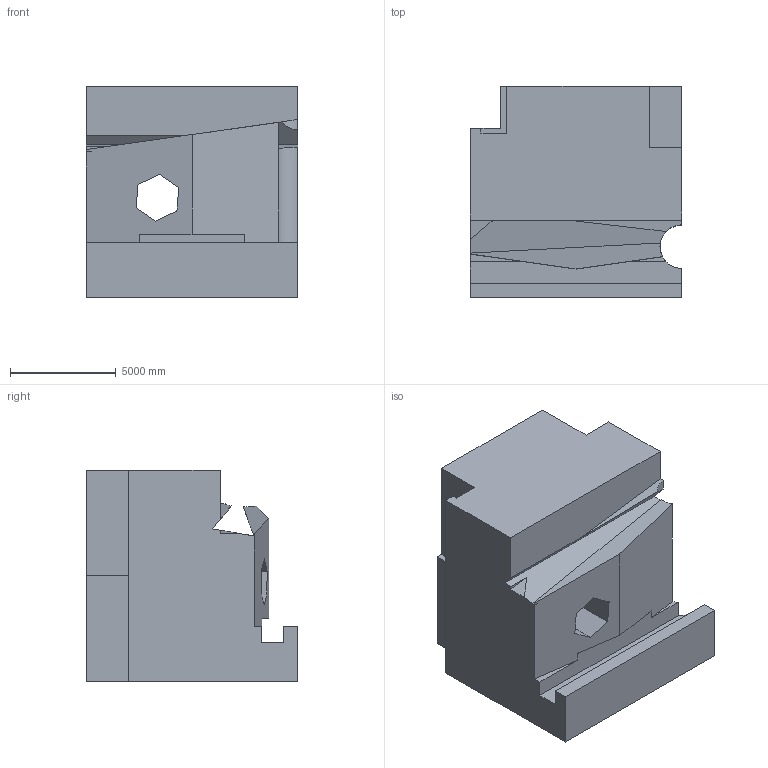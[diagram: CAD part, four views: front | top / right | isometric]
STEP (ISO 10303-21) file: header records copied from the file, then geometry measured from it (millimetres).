
FILE_DESCRIPTION (( 'STEP AP203' ), '1' );
FILE_NAME ('1836.STEP', '2022-08-19T13:22:38', ( 'user' ), ( '' ), 'SwSTEP 2.0', 'SolidWorks 2021', '' );
FILE_SCHEMA (( 'CONFIG_CONTROL_DESIGN' ));
Length unit declared in the file: centimetre
Products named in the file (1): 1836
Bounding box: 10000 x 10000 x 10000 mm (x, y, z)
Volume: 731709010279.4 mm3; surface area: 641931799.1 mm2
Topology: 1 solids, 1 shells, 42 faces, 118 edges, 78 vertices
Faces by surface type: plane 40, cylinder 2
Entity records: 1410 total; most frequent: CARTESIAN_POINT 254, ORIENTED_EDGE 236, DIRECTION 202, EDGE_CURVE 118, LINE 110, VECTOR 110, VERTEX_POINT 78, AXIS2_PLACEMENT_3D 46
